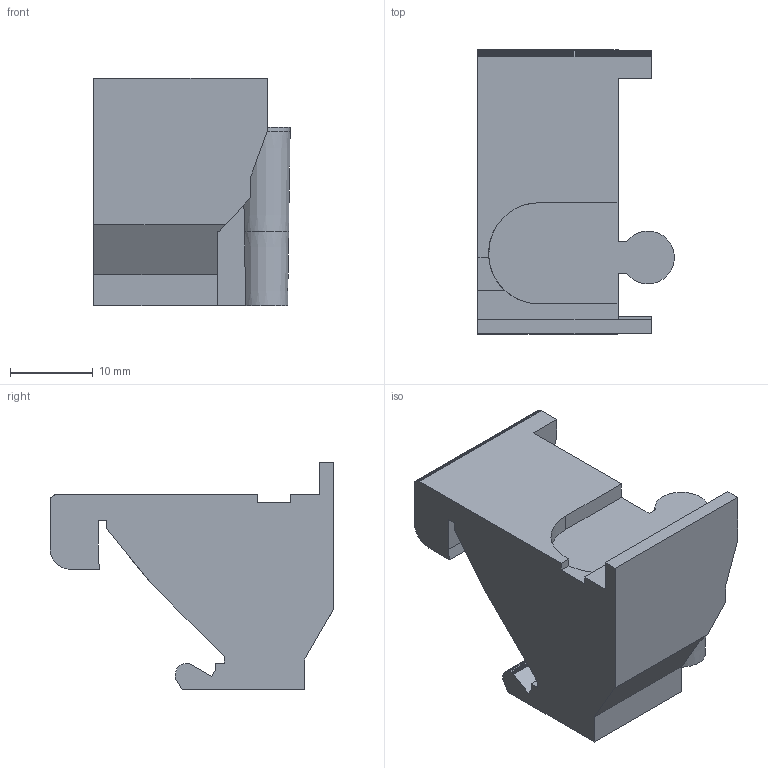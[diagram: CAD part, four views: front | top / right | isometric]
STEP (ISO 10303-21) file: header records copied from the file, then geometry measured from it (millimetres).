
FILE_DESCRIPTION(('Open CASCADE Model'),'2;1');
FILE_NAME('Open CASCADE Shape Model','2026-10-27T10:01:12',('Author'),( 'Open CASCADE'),'Open CASCADE STEP processor 8.0','build123d', 'Unknown');
FILE_SCHEMA(('AUTOMOTIVE_DESIGN { 1 0 10303 214 1 1 1 1 }'));
Length unit declared in the file: millimetre
Products named in the file (1): SOLID
Bounding box: 23.68 x 34.2 x 27.4 mm (x, y, z)
Volume: 9028.5 mm3; surface area: 3931.6 mm2
Topology: 1 solids, 1 shells, 107 faces, 319 edges, 214 vertices
Faces by surface type: plane 102, cone 3, cylinder 1, bspline 1
Entity records: 7518 total; most frequent: CARTESIAN_POINT 2080, DIRECTION 694, ORIENTED_EDGE 638, PCURVE 638, DEFINITIONAL_REPRESENTATION 638, B_SPLINE_CURVE_WITH_KNOTS 485, LINE 458, VECTOR 458
